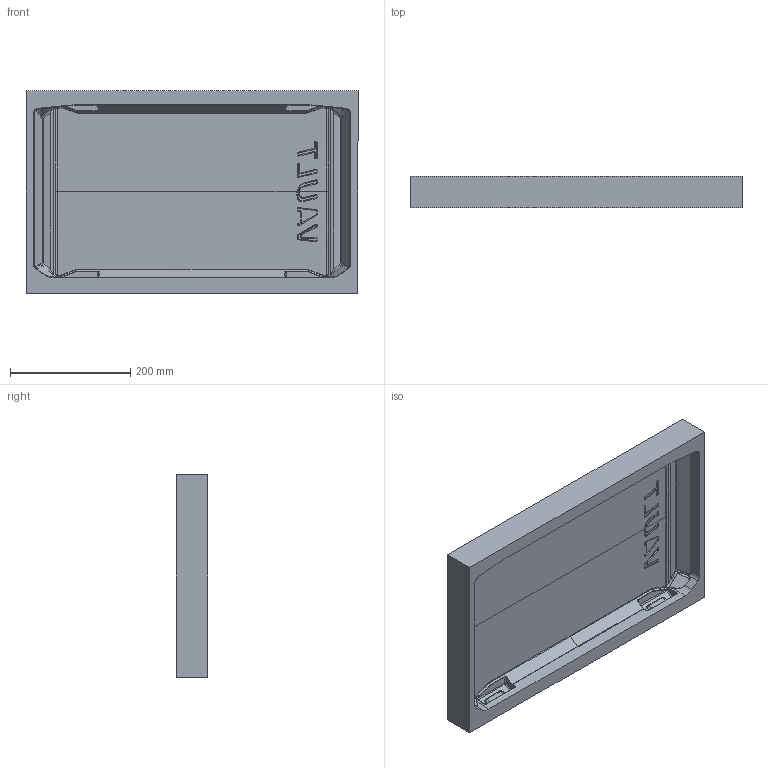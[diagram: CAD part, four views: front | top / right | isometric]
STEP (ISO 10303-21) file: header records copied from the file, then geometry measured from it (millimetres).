
FILE_DESCRIPTION (( 'STEP AP214' ), '1' );
FILE_NAME ('V525 PP TOP TUB 10-2-2023.STEP', '2023-10-03T23:16:24', ( '' ), ( '' ), 'SwSTEP 2.0', 'SolidWorks 2021', '' );
FILE_SCHEMA (( 'AUTOMOTIVE_DESIGN' ));
Length unit declared in the file: millimetre
Products named in the file (1): V525 PP TOP TUB 10-2-2023
Bounding box: 551.22 x 52.13 x 335.99 mm (x, y, z)
Volume: 3775336.8 mm3; surface area: 519200.9 mm2
Topology: 1 solids, 1 shells, 523 faces, 1294 edges, 742 vertices
Faces by surface type: bspline 466, plane 57
Entity records: 21436 total; most frequent: CARTESIAN_POINT 13707, ORIENTED_EDGE 2516, EDGE_CURVE 1258, VERTEX_POINT 742, EDGE_LOOP 528, FACE_OUTER_BOUND 523, ADVANCED_FACE 523, B_SPLINE_CURVE_WITH_KNOTS 471
